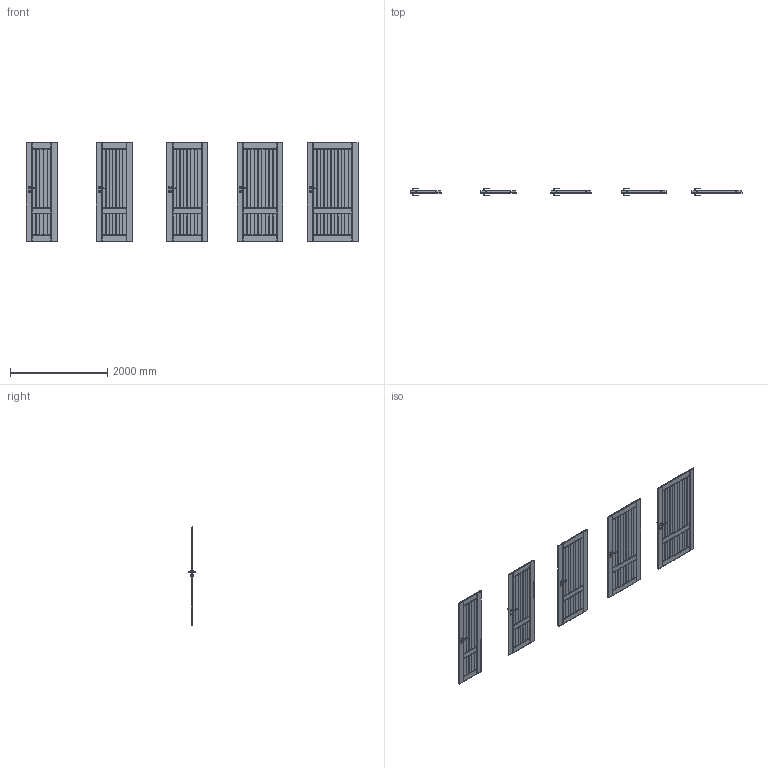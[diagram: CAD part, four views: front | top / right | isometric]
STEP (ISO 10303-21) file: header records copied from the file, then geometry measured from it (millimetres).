
FILE_DESCRIPTION(/* description */ (''),/* implementation_level */ '2;1');
FILE_NAME(/* name */ '049855_A_2-Skrzydło OSLO model 2_ polska norma _PN__ przylgowe..stp',/* time_stamp */ '2024-09-03T13:38:45+02:00',/* author */ (''),/* organization */ (''),/* preprocessor_version */ 'ST-DEVELOPER v16',/* originating_system */ 'SIEMENS PLM Software NX 11.0',/* authorisation */ '');
FILE_SCHEMA (('AUTOMOTIVE_DESIGN { 1 0 10303 214 3 1 1 1 }'));
Products named in the file (1): bkni2A047F3F8axh
Bounding box: 6844 x 153.13 x 2030 mm (x, y, z)
Volume: 327796490.6 mm3; surface area: 18616161.3 mm2
Topology: 25 solids, 25 shells, 4090 faces, 10710 edges, 6600 vertices
Faces by surface type: plane 1770, cylinder 1460, torus 280, cone 280, bspline 160, sphere 140
Entity records: 140316 total; most frequent: CARTESIAN_POINT 41928, ORIENTED_EDGE 21140, DIRECTION 20052, EDGE_CURVE 10570, AXIS2_PLACEMENT_3D 7251, VERTEX_POINT 6600, LINE 5550, VECTOR 5550
